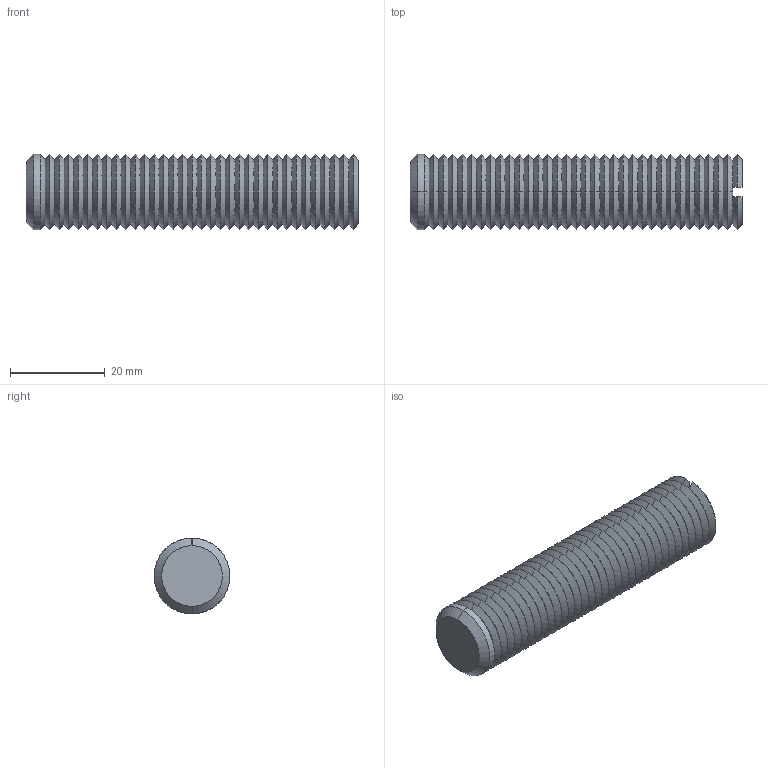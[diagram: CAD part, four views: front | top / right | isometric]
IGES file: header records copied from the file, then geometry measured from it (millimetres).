
Start section: SolidWorks IGES file using analytic representation for surfaces
Global section: file name: C:\Documents and Settings\IANO\Desktop\Temp File\Process pending\EXISTING\34300_v2\34300_v2_20170622_IGES\34300.W0167.igs; native system: SolidWorks 2009; preprocessor: SolidWorks 2009; author: IANO; date: 170622.094500; units: millimetre
Bounding box: 70 x 16 x 16 mm (x, y, z)
Surface area: 5458 mm2 (no closed solid volume)
Topology: 0 solids, 0 shells, 144 faces, 640 edges, 640 vertices
Faces by surface type: revolution 138, bspline 6
